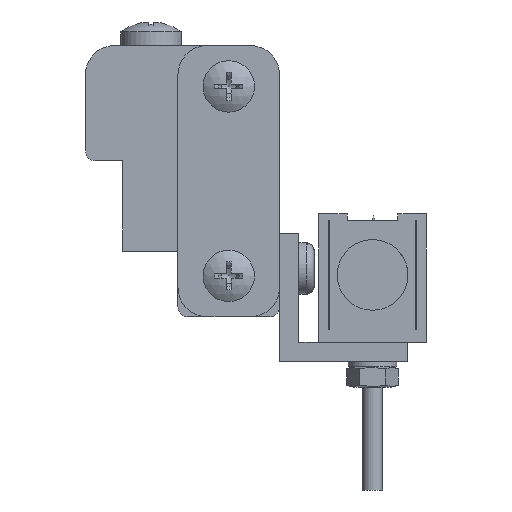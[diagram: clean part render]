
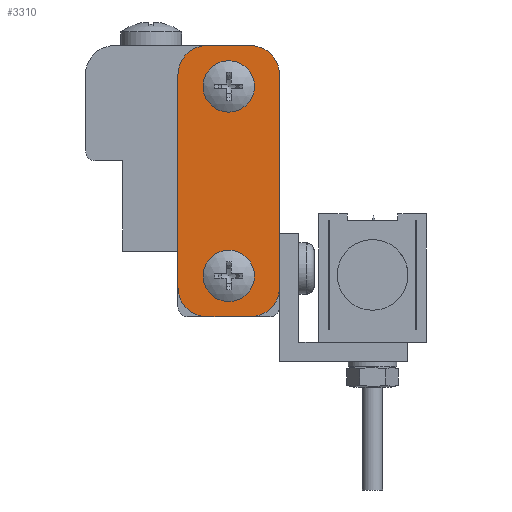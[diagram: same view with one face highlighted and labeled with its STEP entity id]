
A CAD part, left-side view. The second image highlights one B-rep face of the part: STEP entity #3310.
In plain terms, the highlighted planar face has unit normal (-1, 0, 0).
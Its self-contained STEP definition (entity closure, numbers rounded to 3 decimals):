
#3310=ADVANCED_FACE('', (#3320,#3330,#3340), #3350, .T.);
#19690=AXIS2_PLACEMENT_3D('Ax2Pl3d', #19700, #19710, #19720);
#20210=AXIS2_PLACEMENT_3D('Ax2Pl3d', #20220, #20230, #20240);
#20250=AXIS2_PLACEMENT_3D('Ax2Pl3d', #20260, #20270, #20280);
#20290=AXIS2_PLACEMENT_3D('Ax2Pl3d', #20300, #20310, #20320);
#20330=AXIS2_PLACEMENT_3D('Ax2Pl3d', #20340, #20350, #20360);
#20370=AXIS2_PLACEMENT_3D('Ax2Pl3d', #20380, #20390, #20400);
#20410=AXIS2_PLACEMENT_3D('Ax2Pl3d', #20420, #20430, #20440);
#68350=CARTESIAN_POINT('', (1030.853,-2230.588,1203.92));
#68470=CARTESIAN_POINT('', (1030.853,-2223.788,1203.92));
#68480=CARTESIAN_POINT('', (1030.853,-2230.588,1203.92))
;
#19700=CARTESIAN_POINT('HicPkt', (1030.853,-2230.588,
1166.22));
#70270=CARTESIAN_POINT('', (1030.853,-2235.088,1166.22));
#70280=CARTESIAN_POINT('', (1030.853,-2230.588,1161.72))
;
#70380=CARTESIAN_POINT('', (1030.853,-2223.788,1161.72))
;
#70390=CARTESIAN_POINT('', (1030.853,-2223.788,1161.72));
#70450=CARTESIAN_POINT('', (1030.853,-2235.088,1199.42))
;
#70460=CARTESIAN_POINT('', (1030.853,-2235.088,1166.22));
#20220=CARTESIAN_POINT('HicPkt', (1030.853,-2219.288,
1199.42));
#20260=CARTESIAN_POINT('HicPkt', (1030.853,-2230.588,
1199.42));
#20300=CARTESIAN_POINT('HicPkt', (1030.853,-2223.788,
1199.42));
#70800=CARTESIAN_POINT('', (1030.853,-2219.288,1199.42));
#70810=CARTESIAN_POINT('', (1030.853,-2219.288,1199.42));
#70820=CARTESIAN_POINT('', (1030.853,-2219.288,1166.22)
);
#20340=CARTESIAN_POINT('HicPkt', (1030.853,-2223.788,
1166.22));
#20380=CARTESIAN_POINT('HicPkt', (1030.853,-2227.188,
1197.57));
#70830=CARTESIAN_POINT('', (1030.853,-2231.188,1197.57));
#20420=CARTESIAN_POINT('HicPkt', (1030.853,-2227.188,
1168.07));
#70840=CARTESIAN_POINT('', (1030.853,-2231.188,1168.07));
#77740=CIRCLE('Circle', #19690, 4.5);
#77810=CIRCLE('Circle', #20250, 4.5);
#77820=CIRCLE('Circle', #20290, 4.5);
#77830=CIRCLE('Circle', #20330, 4.5);
#77840=CIRCLE('Circle', #20370, 4.);
#77850=CIRCLE('Circle', #20410, 4.);
#106370=DIRECTION('', (0.,-1.,0.));
#19710=DIRECTION('Axis', (1.,0.,0.)
);
#19720=DIRECTION('RefDirection', (0.,
0.,-1.));
#106610=DIRECTION('', (0.,1.,0.));
#106650=DIRECTION('', (0.,0.,-1.));
#20230=DIRECTION('Axis', (-1.,0.,0.)
);
#20240=DIRECTION('RefDirection', (0.,
0.,-1.));
#20270=DIRECTION('Axis', (1.,0.,0.)
);
#20280=DIRECTION('RefDirection', (0.,
0.,-1.));
#20310=DIRECTION('Axis', (1.,0.,0.)
);
#20320=DIRECTION('RefDirection', (0.,
0.,-1.));
#106810=DIRECTION('', (0.,0.,1.));
#20350=DIRECTION('Axis', (1.,0.,
0.));
#20360=DIRECTION('RefDirection', (0.,
0.,-1.));
#20390=DIRECTION('Axis', (-1.,0.,0.)
);
#20400=DIRECTION('RefDirection', (0.,
0.,-1.));
#20430=DIRECTION('Axis', (-1.,0.,0.)
);
#20440=DIRECTION('RefDirection', (0.,
0.,-1.));
#109160=EDGE_CURVE('', #109140, #108960, #109170, .T.);
#113120=EDGE_CURVE('', #113130, #113140, #77740, .T.);
#113300=EDGE_CURVE('', #113140, #113310, #113320, .T.);
#113420=EDGE_CURVE('', #113400, #113130, #113430, .T.);
#114030=EDGE_CURVE('', #108960, #113400, #77810, .T.);
#114040=EDGE_CURVE('', #114050, #109140, #77820, .T.);
#114060=EDGE_CURVE('', #114070, #114050, #114080, .T.);
#114090=EDGE_CURVE('', #113310, #114070, #77830, .T.);
#114100=EDGE_CURVE('', #114110, #114110, #77840, .T.);
#114120=EDGE_CURVE('', #114130, #114130, #77850, .T.);
#131530=EDGE_LOOP('Edge_loop', (#131540,#131550,#131560,#131570,#131580,
#131590,#131600,#131610));
#131620=EDGE_LOOP('Edge_loop', (#131630));
#131640=EDGE_LOOP('Edge_loop', (#131650));
#3330=FACE_BOUND('', #131620, .T.);
#3340=FACE_BOUND('', #131640, .T.);
#3320=FACE_OUTER_BOUND('Face_outer_bound', #131530, .T.);
#109170=LINE('Line', #68480, #152280);
#113320=LINE('Line', #70380, #152520);
#113430=LINE('Line', #70460, #152560);
#114080=LINE('Line', #70810, #152720);
#131540=ORIENTED_EDGE('', *, *, #114030, .F.);
#131550=ORIENTED_EDGE('', *, *, #109160, .F.);
#131560=ORIENTED_EDGE('', *, *, #114040, .F.);
#131570=ORIENTED_EDGE('', *, *, #114060, .F.);
#131580=ORIENTED_EDGE('', *, *, #114090, .F.);
#131590=ORIENTED_EDGE('', *, *, #113300, .F.);
#131600=ORIENTED_EDGE('', *, *, #113120, .F.);
#131610=ORIENTED_EDGE('', *, *, #113420, .F.);
#131630=ORIENTED_EDGE('', *, *, #114100, .F.);
#131650=ORIENTED_EDGE('', *, *, #114120, .F.);
#3350=PLANE('Plane', #20210);
#152280=VECTOR('', #106370, 6.8);
#152520=VECTOR('', #106610, 6.8);
#152560=VECTOR('', #106650, 33.2);
#152720=VECTOR('', #106810, 33.2);
#108960=VERTEX_POINT('', #68350);
#109140=VERTEX_POINT('', #68470);
#113130=VERTEX_POINT('', #70270);
#113140=VERTEX_POINT('', #70280);
#113310=VERTEX_POINT('', #70390);
#113400=VERTEX_POINT('', #70450);
#114050=VERTEX_POINT('', #70800);
#114070=VERTEX_POINT('', #70820);
#114110=VERTEX_POINT('', #70830);
#114130=VERTEX_POINT('', #70840);
